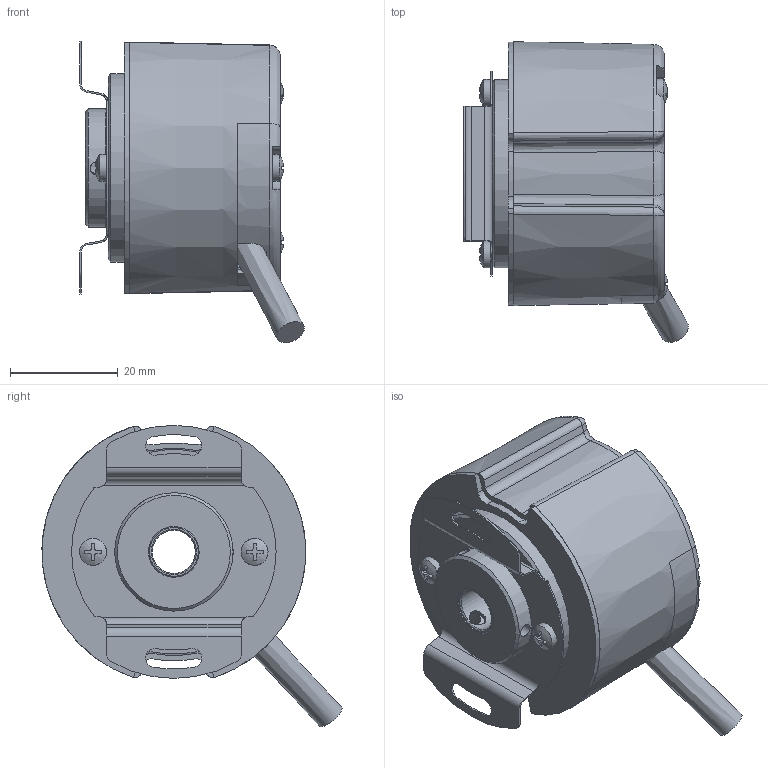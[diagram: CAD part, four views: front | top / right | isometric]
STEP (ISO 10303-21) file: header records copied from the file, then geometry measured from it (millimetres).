
FILE_DESCRIPTION( ( 'Unknown' ), '1' );
FILE_NAME( 'X:/I - Italia/UT - Ufficio Tecnico/Documenti Tecnico/Schede prodotti/InDesign/Assiemi SolidEdge per cataloghi/STEP ASSIEMI/EL48C_P.stp', 'Unknown', ( 'Unknown' ), ( 'Unknown' ), 'PSStep 15.0.49', 'Unknown', ' ' );
FILE_SCHEMA( ( 'AUTOMOTIVE_DESIGN { 1 0 10303 214 1 1 1 1 }' ) );
Length unit declared in the file: millimetre
Products named in the file (44): Assem1; 41330096D1; 41320110E1; 44010159A1; 23290023 - 6802 15x24x5; 23290023 - 6802 15x24x5-oa0; 23240023B1; 23220032F1; 23890013; 23250016-Versione ufficiale; 23300085 - UNI 7687 M2.5x6 TCI+; 23300085 - UNI 7687 M2.5x6 TCI+-oa1; 23300085 - UNI 7687 M2.5x6 TCI+-oa2; 23300085 - UNI 7687 M2.5x6 TCI+-oa3; 23300085 - UNI 7687 M2.5x6 TCI+-oa4; cavo
Assembly tree (43 placements, depth 2):
  Assem1
    41330096D1
    41320110E1
    44010159A1
    23290023 - 6802 15x24x5
    23290023 - 6802 15x24x5
    23290023 - 6802 15x24x5
    23290023 - 6802 15x24x5
    23290023 - 6802 15x24x5
    23290023 - 6802 15x24x5
    23290023 - 6802 15x24x5
    23290023 - 6802 15x24x5
    23290023 - 6802 15x24x5
    23290023 - 6802 15x24x5
    23290023 - 6802 15x24x5
    23290023 - 6802 15x24x5
    23290023 - 6802 15x24x5
    23290023 - 6802 15x24x5
    23290023 - 6802 15x24x5
    23290023 - 6802 15x24x5-oa0
    23290023 - 6802 15x24x5-oa0
    23290023 - 6802 15x24x5-oa0
    23290023 - 6802 15x24x5-oa0
    23290023 - 6802 15x24x5-oa0
    23290023 - 6802 15x24x5-oa0
    23290023 - 6802 15x24x5-oa0
    23290023 - 6802 15x24x5-oa0
    23290023 - 6802 15x24x5-oa0
    23290023 - 6802 15x24x5-oa0
    23290023 - 6802 15x24x5-oa0
    23290023 - 6802 15x24x5-oa0
    23290023 - 6802 15x24x5-oa0
    23290023 - 6802 15x24x5-oa0
    23290023 - 6802 15x24x5-oa0
    23240023B1
    23220032F1
    23890013
    23250016-Versione ufficiale
    23300085 - UNI 7687 M2.5x6 TCI+
    23300085 - UNI 7687 M2.5x6 TCI+-oa1
    23300085 - UNI 7687 M2.5x6 TCI+-oa2
    23300085 - UNI 7687 M2.5x6 TCI+-oa3
    23300085 - UNI 7687 M2.5x6 TCI+-oa4
    cavo
Bounding box: 41.75 x 55.72 x 55.96 mm (x, y, z)
Volume: 24650.3 mm3; surface area: 32434.8 mm2
Topology: 43 solids, 45 shells, 733 faces, 1888 edges, 1226 vertices
Faces by surface type: plane 315, cylinder 240, bspline 77, cone 49, sphere 28, torus 14, offset 10
Full cylindrical faces by diameter (mm): 2.013 x2, 2.05 x2, 2.2 x2, 2.459 x3, 2.5 x5, 2.8 x3, 3 x2, 3.2 x2, 3.459 x3, 5 x5, 8 x1, 8.2 x1, 9.4 x2, 14.3 x1, 15 x4, 15.4 x2, 15.5 x1, 16.4 x1, 16.5 x1, 17 x1, 17.2 x4, 17.4 x4, 19 x1, 20.1 x1, 21 x2, 21.4 x4, 22 x1, 23.5 x1, 23.6 x2, 24 x3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
Entity records: 37475 total; most frequent: CARTESIAN_POINT 14598, ORIENTED_EDGE 3246, DIRECTION 3228, EDGE_CURVE 1623, AXIS2_PLACEMENT_3D 1246, VERTEX_POINT 1193, EDGE_LOOP 934, FACE_OUTER_BOUND 792
